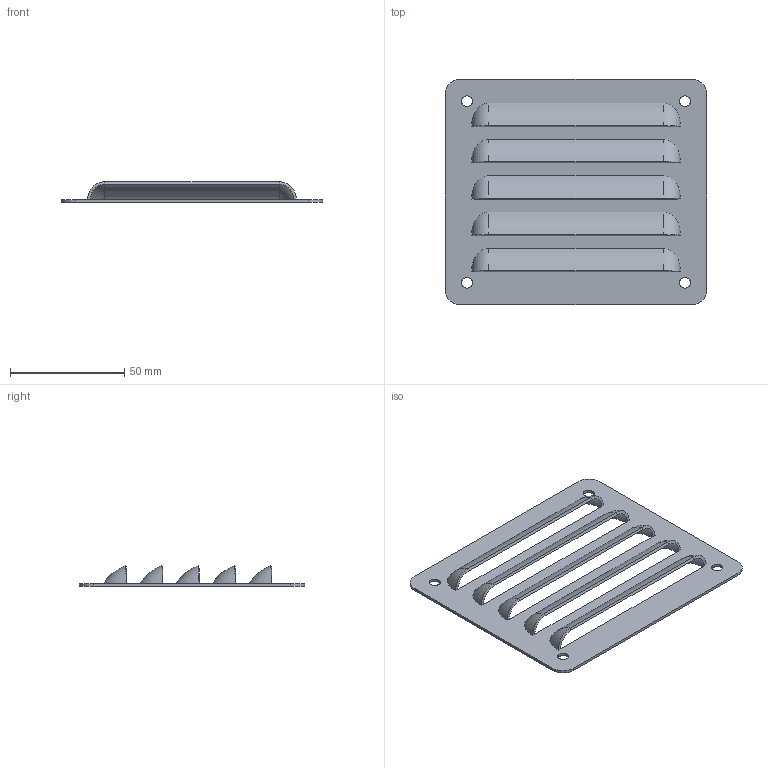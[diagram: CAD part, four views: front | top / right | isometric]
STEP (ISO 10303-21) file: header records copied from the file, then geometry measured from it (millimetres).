
FILE_DESCRIPTION((''),'2;1');
FILE_NAME('SCE-AVK33_ASM','2021-10-18T08:52:06',('mikek'),('SAGINAW CONTROL & ENGINEERING'),'CREO PARAMETRIC BY PTC INC, 2017260','CREO PARAMETRIC BY PTC INC, 2017260','');
FILE_SCHEMA(('AUTOMOTIVE_DESIGN { 1 0 10303 214 1 1 1 1 }'));
Length unit declared in the file: inch
Products named in the file (3): 110722; 102048; SCE-AVK33_ASM
Assembly tree (2 placements, depth 2):
  SCE-AVK33_ASM
    110722
    102048
Bounding box: 114.3 x 98.42 x 9.07 mm (x, y, z)
Volume: 15345.9 mm3; surface area: 26935.3 mm2
Topology: 1 solids, 1 shells, 88 faces, 218 edges, 132 vertices
Faces by surface type: bspline 30, cylinder 22, torus 20, plane 16
Entity records: 5099 total; most frequent: CARTESIAN_POINT 2367, ORIENTED_EDGE 436, DIRECTION 348, EDGE_CURVE 218, VERTEX_POINT 132, PROPERTY_DEFINITION 126, REPRESENTATION 125, PROPERTY_DEFINITION_REPRESENTATION 125
